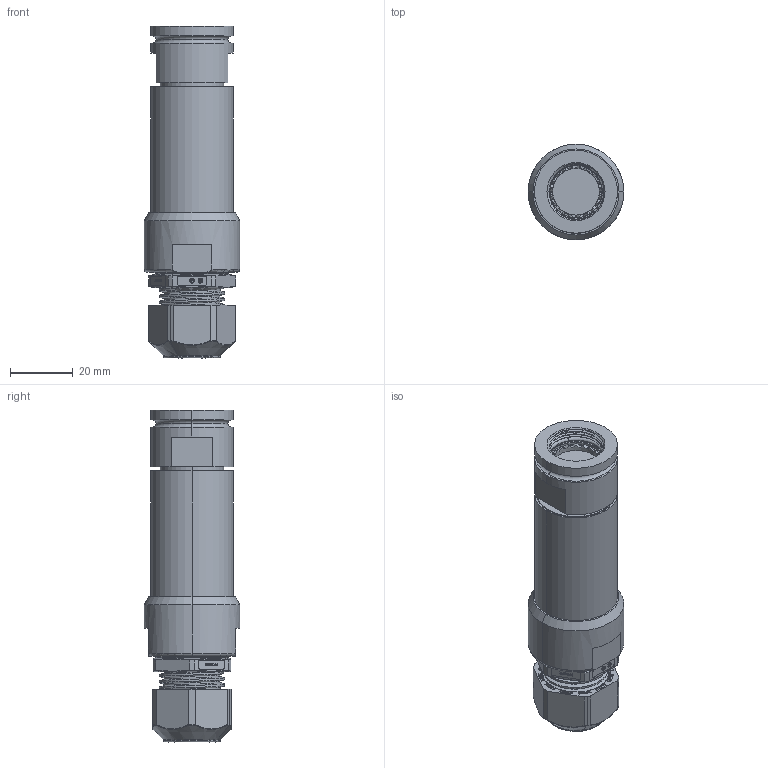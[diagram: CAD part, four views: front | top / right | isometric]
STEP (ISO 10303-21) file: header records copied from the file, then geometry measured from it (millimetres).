
FILE_DESCRIPTION (( 'STEP AP214' ), '1' );
FILE_NAME ('Q38SHELL-STX-13-XXXX-GL.STEP', '2025-09-09T20:45:52', ( '' ), ( '' ), 'SwSTEP 2.0', 'SolidWorks 2024', '' );
FILE_SCHEMA (( 'AUTOMOTIVE_DESIGN' ));
Length unit declared in the file: millimetre
Products named in the file (1): Q38SHELL-STX-13-XXXX-GL
Bounding box: 30.48 x 30.48 x 105.79 mm (x, y, z)
Surface area: 22498 mm2 (no closed solid volume)
Topology: 0 solids, 9 shells, 1291 faces, 3283 edges, 2064 vertices
Faces by surface type: plane 619, cylinder 232, bspline 153, torus 123, cone 110, sphere 54
Entity records: 59178 total; most frequent: CARTESIAN_POINT 34449, ORIENTED_EDGE 6524, EDGE_CURVE 3282, DIRECTION 2941, B_SPLINE_CURVE_WITH_KNOTS 2641, VERTEX_POINT 2064, AXIS2_PLACEMENT_3D 1367, EDGE_LOOP 1357
